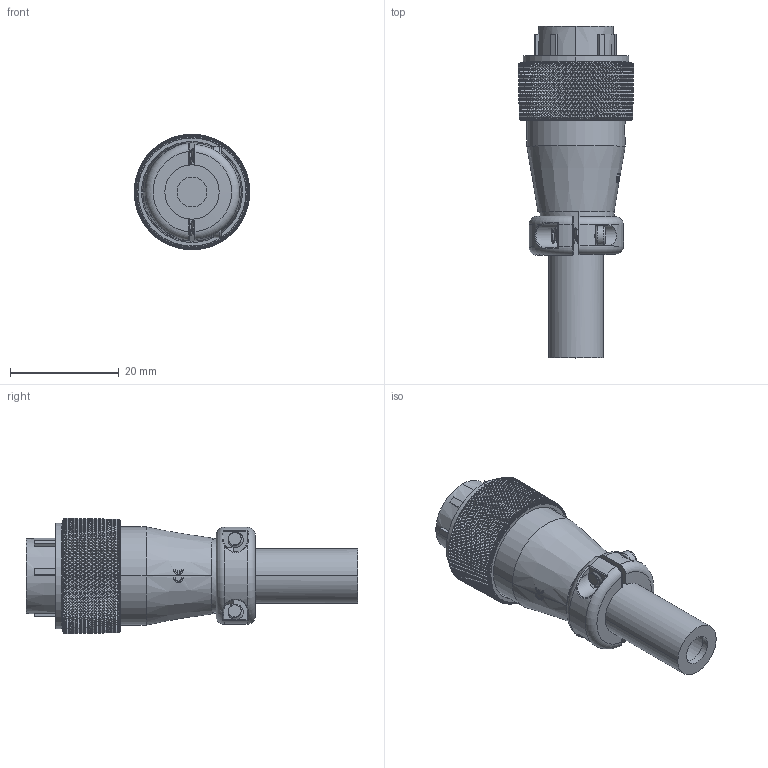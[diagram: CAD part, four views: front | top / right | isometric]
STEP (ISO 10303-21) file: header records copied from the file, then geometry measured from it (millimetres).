
FILE_DESCRIPTION((''),'2;1');
FILE_NAME('WS16J10TQ','2021-01-21T',('Administrator'),(''),'CREO PARAMETRIC BY PTC INC, 2016130','CREO PARAMETRIC BY PTC INC, 2016130','');
FILE_SCHEMA(('CONFIG_CONTROL_DESIGN'));
Products named in the file (1): WS16J10TQ
Bounding box: 21.25 x 61.13 x 21.25 mm (x, y, z)
Volume: 8907.4 mm3; surface area: 7612.8 mm2
Topology: 1 solids, 4 shells, 15745 faces, 34641 edges, 18905 vertices
Faces by surface type: bspline 8870, cylinder 4530, cone 2149, plane 149, torus 24, sphere 21, extrusion 2
Entity records: 657005 total; most frequent: CARTESIAN_POINT 400924, ORIENTED_EDGE 69242, EDGE_CURVE 34621, B_SPLINE_CURVE_WITH_KNOTS 27399, DIRECTION 21503, VERTEX_POINT 18905, EDGE_LOOP 15778, FACE_OUTER_BOUND 15745
